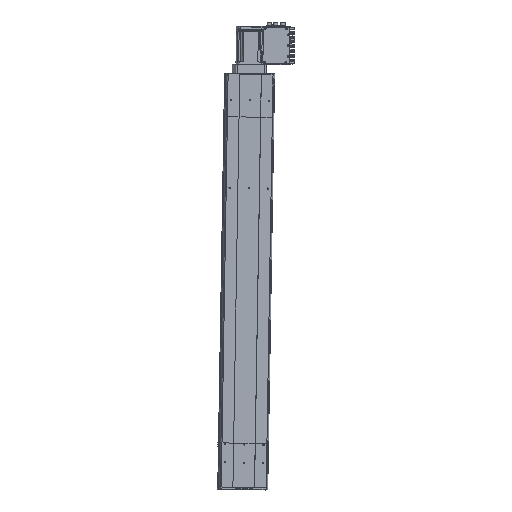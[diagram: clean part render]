
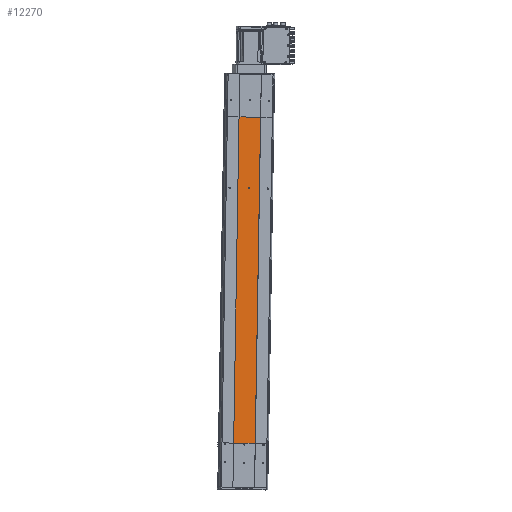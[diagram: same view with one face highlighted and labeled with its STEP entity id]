
A CAD part, front view. The second image highlights one B-rep face of the part: STEP entity #12270.
In plain terms, the highlighted planar face has unit normal (0.098, -0.995, 0.002) as drawn and (0, -1, 0) by its records, which use the part's own axes.
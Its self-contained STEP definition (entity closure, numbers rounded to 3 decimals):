
#12177 = EDGE_LOOP ( 'NONE', ( #12271, #12347, #12316, #12351 ) ) ;
#12244 = EDGE_CURVE ( 'NONE', #12248, #12343, #63323, .T. ) ;
#12246 = EDGE_CURVE ( 'NONE', #12248, #12356, #63313, .T. ) ;
#12248 = VERTEX_POINT ( 'NONE', #63315 ) ;
#12270 = ADVANCED_FACE ( 'NONE', ( #63411, #63301 ), #63412, .F. ) ;
#12271 = ORIENTED_EDGE ( 'NONE', *, *, #12415, .T. ) ;
#12284 = EDGE_CURVE ( 'NONE', #12290, #12295, #63391, .T. ) ;
#12290 = VERTEX_POINT ( 'NONE', #63473 ) ;
#12295 = VERTEX_POINT ( 'NONE', #63460 ) ;
#12314 = VERTEX_POINT ( 'NONE', #63520 ) ;
#12315 = EDGE_LOOP ( 'NONE', ( #12345, #12380 ) ) ;
#12316 = ORIENTED_EDGE ( 'NONE', *, *, #12246, .F. ) ;
#12319 = EDGE_CURVE ( 'NONE', #12356, #12314, #63499, .T. ) ;
#12343 = VERTEX_POINT ( 'NONE', #63587 ) ;
#12345 = ORIENTED_EDGE ( 'NONE', *, *, #12372, .F. ) ;
#12347 = ORIENTED_EDGE ( 'NONE', *, *, #12319, .F. ) ;
#12351 = ORIENTED_EDGE ( 'NONE', *, *, #12244, .T. ) ;
#12356 = VERTEX_POINT ( 'NONE', #63569 ) ;
#12372 = EDGE_CURVE ( 'NONE', #12295, #12290, #63646, .T. ) ;
#12380 = ORIENTED_EDGE ( 'NONE', *, *, #12284, .F. ) ;
#12415 = EDGE_CURVE ( 'NONE', #12343, #12314, #63727, .T. ) ;
#63301 = FACE_BOUND ( 'NONE', #12315, .T. ) ;
#63307 = DIRECTION ( 'NONE',  ( 1., 0., 0. ) ) ;
#63309 = VECTOR ( 'NONE', #63307, 1000. ) ;
#63311 = CARTESIAN_POINT ( 'NONE',  ( -30., -32.5, 350. ) ) ;
#63313 = LINE ( 'NONE', #63311, #63309 ) ;
#63315 = CARTESIAN_POINT ( 'NONE',  ( -30., -32.5, 350. ) ) ;
#63316 = DIRECTION ( 'NONE',  ( 0., 0., -1. ) ) ;
#63318 = VECTOR ( 'NONE', #63316, 1000. ) ;
#63322 = CARTESIAN_POINT ( 'NONE',  ( -30., -32.5, 350. ) ) ;
#63323 = LINE ( 'NONE', #63322, #63318 ) ;
#63346 = DIRECTION ( 'NONE',  ( 0., 0., -1. ) ) ;
#63348 = DIRECTION ( 'NONE',  ( 0., -1., 0. ) ) ;
#63350 = CARTESIAN_POINT ( 'NONE',  ( 0., -32.5, 153.7 ) ) ;
#63352 = AXIS2_PLACEMENT_3D ( 'NONE', #63350, #63348, #63346 ) ;
#63386 = DIRECTION ( 'NONE',  ( 0., 0., 1. ) ) ;
#63387 = DIRECTION ( 'NONE',  ( 0., 1., 0. ) ) ;
#63388 = CARTESIAN_POINT ( 'NONE',  ( -30., -32.5, 350. ) ) ;
#63391 = CIRCLE ( 'NONE', #63352, 1.6 ) ;
#63406 = AXIS2_PLACEMENT_3D ( 'NONE', #63388, #63387, #63386 ) ;
#63411 = FACE_OUTER_BOUND ( 'NONE', #12177, .T. ) ;
#63412 = PLANE ( 'NONE',  #63406 ) ;
#63460 = CARTESIAN_POINT ( 'NONE',  ( 0., -32.5, 152.1 ) ) ;
#63473 = CARTESIAN_POINT ( 'NONE',  ( 0., -32.5, 155.3 ) ) ;
#63496 = DIRECTION ( 'NONE',  ( 0., 0., -1. ) ) ;
#63497 = VECTOR ( 'NONE', #63496, 1000. ) ;
#63498 = CARTESIAN_POINT ( 'NONE',  ( 30., -32.5, 350. ) ) ;
#63499 = LINE ( 'NONE', #63498, #63497 ) ;
#63520 = CARTESIAN_POINT ( 'NONE',  ( 30., -32.5, -550. ) ) ;
#63569 = CARTESIAN_POINT ( 'NONE',  ( 30., -32.5, 350. ) ) ;
#63587 = CARTESIAN_POINT ( 'NONE',  ( -30., -32.5, -550. ) ) ;
#63618 = VECTOR ( 'NONE', #63677, 1000. ) ;
#63641 = DIRECTION ( 'NONE',  ( 0., 0., -1. ) ) ;
#63643 = DIRECTION ( 'NONE',  ( 0., -1., 0. ) ) ;
#63644 = CARTESIAN_POINT ( 'NONE',  ( 0., -32.5, 153.7 ) ) ;
#63645 = AXIS2_PLACEMENT_3D ( 'NONE', #63644, #63643, #63641 ) ;
#63646 = CIRCLE ( 'NONE', #63645, 1.6 ) ;
#63677 = DIRECTION ( 'NONE',  ( 1., 0., 0. ) ) ;
#63688 = CARTESIAN_POINT ( 'NONE',  ( -30., -32.5, -550. ) ) ;
#63727 = LINE ( 'NONE', #63688, #63618 ) ;
